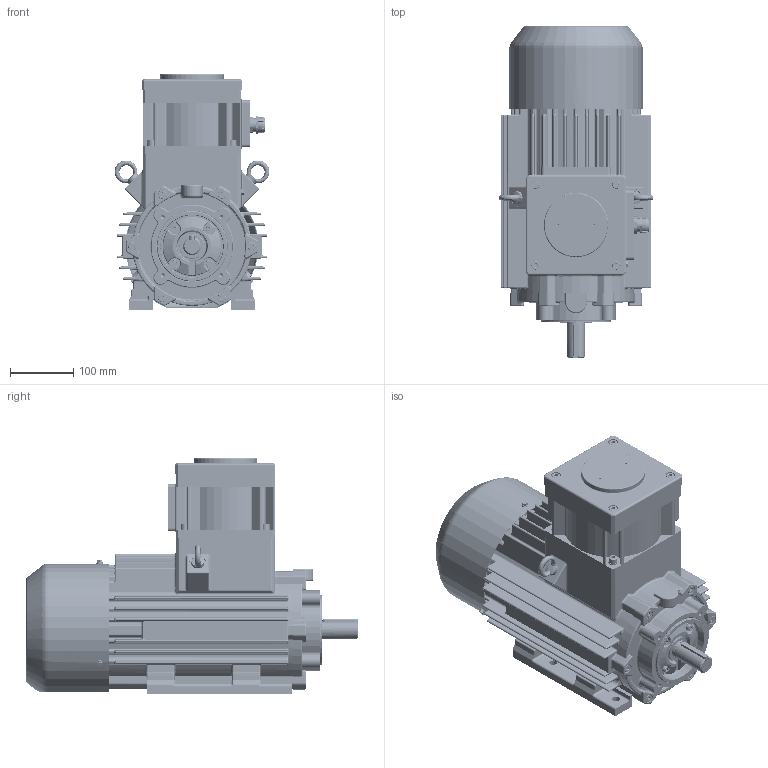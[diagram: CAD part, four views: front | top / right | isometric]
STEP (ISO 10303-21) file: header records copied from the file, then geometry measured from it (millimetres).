
FILE_DESCRIPTION(/* description */ ('Unknown'),/* implementation_level */ '2;1');
FILE_NAME(/* name */ '(E)cSTL1e100L(2-8)-IE(2,3)',/* time_stamp */ '2021-12-17T11:42:12+01:00',/* author */ ('Unknown'),/* organization */ ('Unknown'),/* preprocessor_version */ 'ST-DEVELOPER v16.7',/* originating_system */ 'DEX',/* authorisation */ $);
FILE_SCHEMA (('AP242_MANAGED_MODEL_BASED_3D_ENGINEERING_MIM_LF { 1 0 10303 442 1 1 4 }','AUTOMOTIVE_DESIGN {1 0 10303 214 3 1 1}'));
Length unit declared in the file: millimetre
Products named in the file (1): (E)cSTL1e100L(2-8)-IE(2,3)
Bounding box: 244.02 x 523 x 371 mm (x, y, z)
Volume: 16176307.3 mm3; surface area: 1237736.9 mm2
Topology: 3 solids, 26 shells, 4400 faces, 11445 edges, 7054 vertices
Faces by surface type: cylinder 1748, plane 1501, torus 383, bspline 302, cone 285, sphere 181
Full cylindrical faces by diameter (mm): 3.2 x4, 4.019 x3, 4.134 x3, 4.48 x1, 4.773 x4, 4.917 x22, 5 x7, 5.3 x4, 6 x10, 6.466 x18, 6.6 x4, 6.647 x44, 6.88 x4, 8 x38, 8.376 x13, 9 x14, 10 x8, 11 x4, 12 x4, 13 x18, 15 x11, 15.205 x1, 16.779 x1, 17.307 x1, 18.487 x1, 21.24 x1, 22.376 x1, 23.376 x1, 27.4 x1, 28 x3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
Entity records: 159643 total; most frequent: CARTESIAN_POINT 33189, DIRECTION 22041, ORIENTED_EDGE 20902, EDGE_CURVE 10451, AXIS2_PLACEMENT_3D 8593, VERTEX_POINT 6767, FACE_BOUND 5428, EDGE_LOOP 5387
